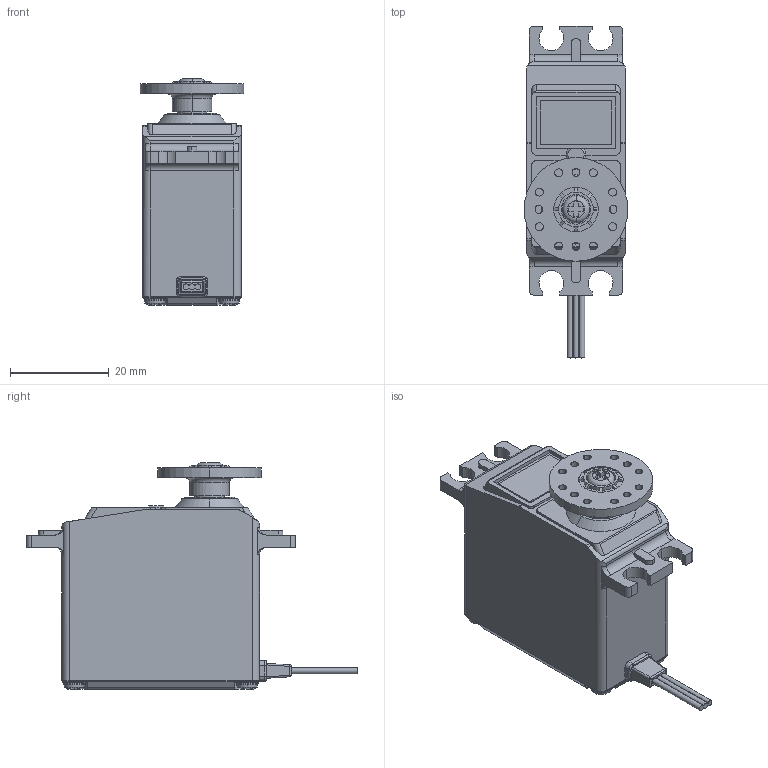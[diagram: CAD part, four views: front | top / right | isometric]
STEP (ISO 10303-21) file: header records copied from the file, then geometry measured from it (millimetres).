
FILE_DESCRIPTION (( 'STEP AP203' ), '1' );
FILE_NAME ('AC20-05H-A01(3D).STEP', '2022-12-06T08:22:46', ( '' ), ( '' ), 'SwSTEP 2.0', 'SolidWorks 2022', '' );
FILE_SCHEMA (( 'CONFIG_CONTROL_DESIGN' ));
Length unit declared in the file: millimetre
Products named in the file (4): AC20-05H-A01; HORN; SCREW M3x8; AC20-05H-A01(3D)
Assembly tree (3 placements, depth 2):
  AC20-05H-A01(3D)
    AC20-05H-A01
    HORN
    SCREW M3x8
Bounding box: 21 x 67.16 x 45.8 mm (x, y, z)
Volume: 30480 mm3; surface area: 8102.8 mm2
Topology: 3 solids, 7 shells, 377 faces, 954 edges, 600 vertices
Faces by surface type: cylinder 157, plane 150, cone 30, torus 28, bspline 10, sphere 2
Entity records: 12624 total; most frequent: CARTESIAN_POINT 3052, DIRECTION 1965, ORIENTED_EDGE 1892, EDGE_CURVE 946, AXIS2_PLACEMENT_3D 740, VERTEX_POINT 600, VECTOR 485, LINE 485
